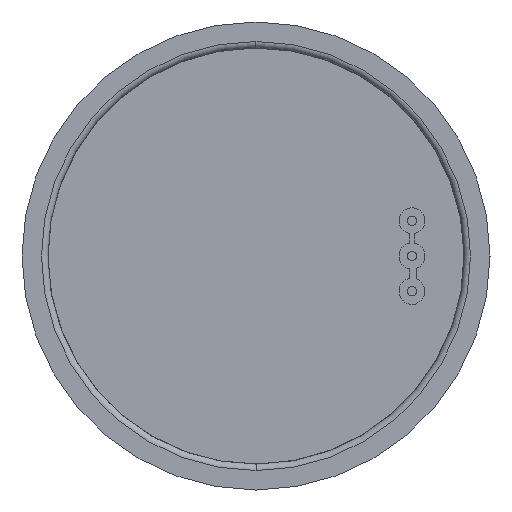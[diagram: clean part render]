
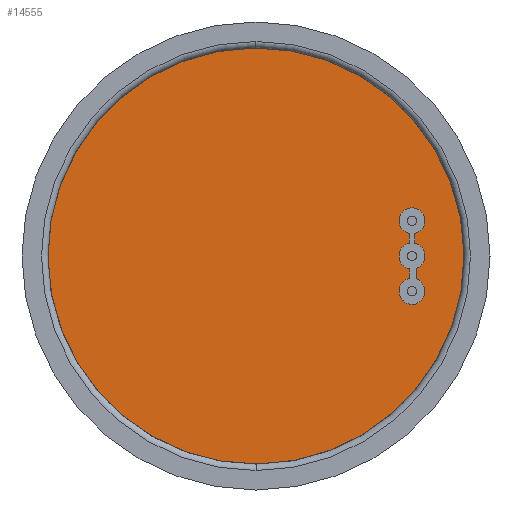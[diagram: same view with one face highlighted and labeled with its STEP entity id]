
A CAD part, left-side view. The second image highlights one B-rep face of the part: STEP entity #14555.
In plain terms, the highlighted planar face has unit normal (-1, 0, 0) as drawn and (0, 0, 1) by its records, which use the part's own axes.
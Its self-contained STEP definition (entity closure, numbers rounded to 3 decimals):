
#14497 = EDGE_CURVE ( 'NONE', #14505, #14510, #38015, .T. ) ;
#14505 = VERTEX_POINT ( 'NONE', #38049 ) ;
#14510 = VERTEX_POINT ( 'NONE', #38042 ) ;
#14512 = EDGE_CURVE ( 'NONE', #14510, #14505, #38041, .T. ) ;
#14548 = ORIENTED_EDGE ( 'NONE', *, *, #14497, .T. ) ;
#14549 = EDGE_LOOP ( 'NONE', ( #14548, #14563 ) ) ;
#14555 = ADVANCED_FACE ( 'NONE', ( #38084 ), #38083, .T. ) ;
#14563 = ORIENTED_EDGE ( 'NONE', *, *, #14512, .T. ) ;
#38011 = DIRECTION ( 'NONE',  ( 1., 0., 0. ) ) ;
#38012 = DIRECTION ( 'NONE',  ( 0., 0., 1. ) ) ;
#38013 = CARTESIAN_POINT ( 'NONE',  ( 0., 0., 3.3 ) ) ;
#38014 = AXIS2_PLACEMENT_3D ( 'NONE', #38013, #38012, #38011 ) ;
#38015 = CIRCLE ( 'NONE', #38014, 8. ) ;
#38037 = DIRECTION ( 'NONE',  ( 1., 0., 0. ) ) ;
#38038 = DIRECTION ( 'NONE',  ( 0., 0., 1. ) ) ;
#38039 = CARTESIAN_POINT ( 'NONE',  ( 0., 0., 3.3 ) ) ;
#38040 = AXIS2_PLACEMENT_3D ( 'NONE', #38039, #38038, #38037 ) ;
#38041 = CIRCLE ( 'NONE', #38040, 8. ) ;
#38042 = CARTESIAN_POINT ( 'NONE',  ( 8., 0., 3.3 ) ) ;
#38049 = CARTESIAN_POINT ( 'NONE',  ( -8., 0., 3.3 ) ) ;
#38082 = AXIS2_PLACEMENT_3D ( 'NONE', #38144, #38143, #38142 ) ;
#38083 = PLANE ( 'NONE',  #38082 ) ;
#38084 = FACE_OUTER_BOUND ( 'NONE', #14549, .T. ) ;
#38142 = DIRECTION ( 'NONE',  ( 1., 0., 0. ) ) ;
#38143 = DIRECTION ( 'NONE',  ( 0., 0., 1. ) ) ;
#38144 = CARTESIAN_POINT ( 'NONE',  ( 0., 0., 3.3 ) ) ;
